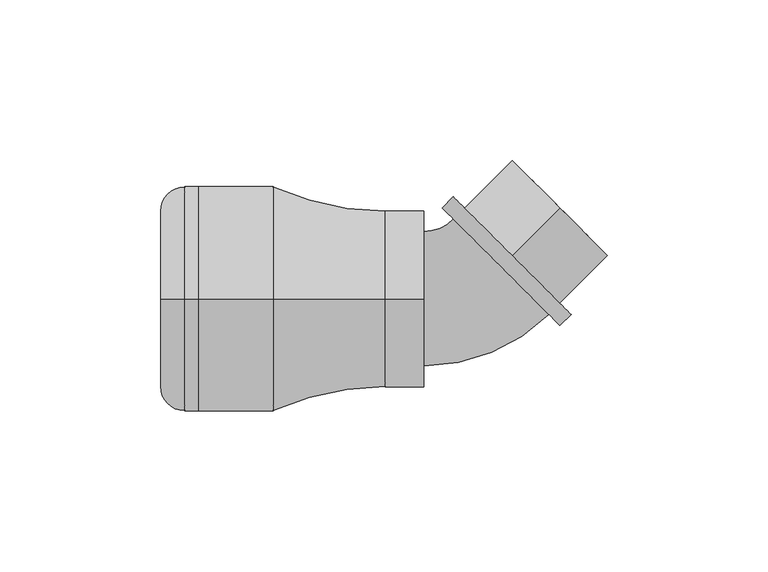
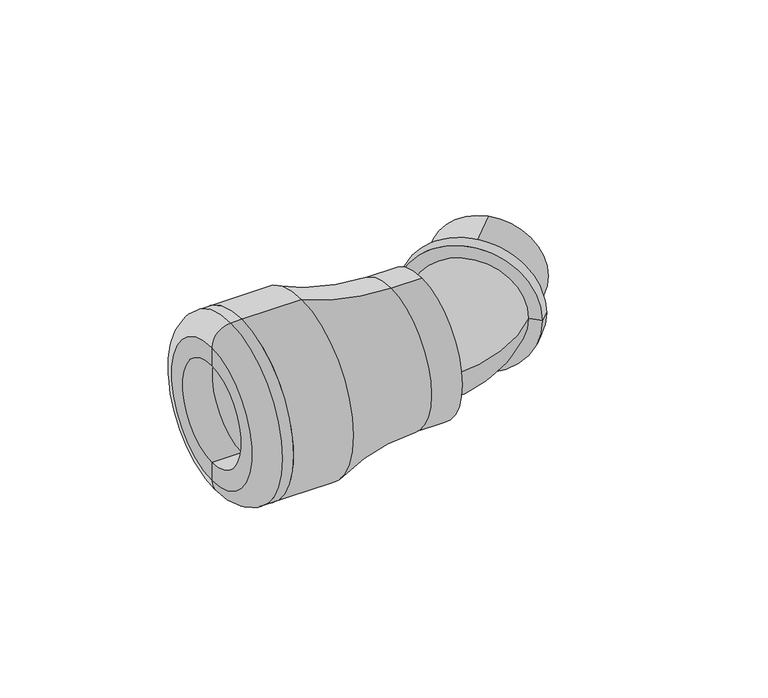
"""IFC4 building model written with IfcOpenShell, lengths in millimetres: pipe fitting geometry, Plumbing_Pipe-Fittings_Plasson_Elbow-45-with-Threaded-Male-Offtake_1045 : Plumbing_Pipe-Fittings_Plasson_Elbow-45-with-Threaded-Male-Offtake_1045."""

from ifc_helpers import new_model, si_unit, point, frame, origin, place, context, project, spatial, polyline, circle_curve, ellipse_curve, trimmed, source, transform, mapped, element, save
from ifc_brep_helpers import plane_surface, cylinder_surface, revolved_surface, advanced_brep


def pipe_fitting_5ccf9fb8(model_context):
    return source(origin(), model_context, "Body", "AdvancedBrep", [
        advanced_brep(
        [(28.2842712, 28.2842712, -12.975), (28.2842712, 28.2842712, 12.975), (13.4350288, 13.4350288, 12.975), (13.4350288, 13.4350288, -12.975), (28.2842712, 28.2842712, -20.95), (28.2842712, 28.2842712, 20.95), (13.4350288, 13.4350288, -20.95), (13.4350288, 13.4350288, 20.95)],
        [
            (0, 1, circle_curve(frame((28.2842712, 28.2842712, 0.0), z_axis=(0.707106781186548, 0.7071067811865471, 0.0), x_axis=(0.0, 0.0, 1.0)), 12.975)),
            (1, 2),
            (2, 3, circle_curve(frame((13.4350288, 13.4350288, 0.0), z_axis=(-0.707106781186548, -0.7071067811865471, 0.0), x_axis=(0.0, 0.0, 1.0)), 12.975)),
            (3, 0),
            (1, 0, circle_curve(frame((28.2842712, 28.2842712, 0.0), z_axis=(0.707106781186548, 0.7071067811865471, 0.0), x_axis=(0.0, 0.0, 1.0)), 12.975)),
            (3, 2, circle_curve(frame((13.4350288, 13.4350288, 0.0), z_axis=(-0.707106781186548, -0.7071067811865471, 0.0), x_axis=(0.0, 0.0, 1.0)), 12.975)),
            (4, 5, circle_curve(frame((28.2842712, 28.2842712, 0.0), z_axis=(0.707106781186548, 0.7071067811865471, 0.0), x_axis=(0.0, 0.0, 1.0)), 20.95)),
            (5, 1),
            (0, 4),
            (5, 4, circle_curve(frame((28.2842712, 28.2842712, 0.0), z_axis=(0.707106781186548, 0.7071067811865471, 0.0), x_axis=(0.0, 0.0, 1.0)), 20.95)),
            (6, 7, circle_curve(frame((13.4350288, 13.4350288, 0.0), z_axis=(0.707106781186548, 0.7071067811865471, 0.0), x_axis=(0.0, 0.0, 1.0)), 20.95)),
            (7, 5),
            (4, 6),
            (7, 6, circle_curve(frame((13.4350288, 13.4350288, 0.0), z_axis=(0.707106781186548, 0.7071067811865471, 0.0), x_axis=(0.0, 0.0, 1.0)), 20.95)),
            (2, 7),
            (6, 3),
        ],
        [
            revolved_surface(polyline([(13.435028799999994, 13.435028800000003, 12.975), (28.284271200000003, 28.284271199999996, 12.975)]), (21.4489057, 21.4489057, 0.0), (-0.707106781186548, -0.7071067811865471, 0.0)),
            plane_surface(frame((28.2842712, 28.2842712, 0.0), z_axis=(0.707106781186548, 0.7071067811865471, 0.0), x_axis=(0.0, 0.0, 1.0))),
            cylinder_surface(frame((21.4489057, 21.4489057, 0.0), z_axis=(-0.707106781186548, -0.7071067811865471, 0.0), x_axis=(0.0, 0.0, 1.0)), 20.95),
            plane_surface(frame((13.4350288, 13.4350288, 0.0), z_axis=(-0.707106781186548, -0.7071067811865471, 0.0), x_axis=(0.0, 0.0, 1.0))),
        ],
        [
            (0, [[1, 2, 3, 4]]),
            (0, [[5, -4, 6, -2]]),
            (1, [[7, 8, -1, 9]]),
            (1, [[10, -9, -5, -8]]),
            (2, [[11, 12, -7, 13]]),
            (2, [[14, -13, -10, -12]]),
            (3, [[-3, 15, -11, 16]]),
            (3, [[-6, -16, -14, -15]]),
        ],
    ),
        advanced_brep(
        [(-14.1246825, -20.95, 0.0), (-14.1246825, 20.95, 0.0), (24.8015458, -4.8262283, 0.0), (-4.8262283, 24.8015458, 0.0)],
        [
            (0, 1, circle_curve(frame((-14.1246825, 0.0, 0.0), z_axis=(-1.0, 0.0, 0.0), x_axis=(0.0, 1.0, 0.0)), 20.95)),
            (1, 0, circle_curve(frame((-14.1246825, 0.0, 0.0), z_axis=(-1.0, 0.0, 0.0), x_axis=(0.0, 1.0, 0.0)), 20.95)),
            (2, 3, circle_curve(frame((9.9876588, 9.9876588, 0.0), z_axis=(0.7071067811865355, 0.7071067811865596, 0.0), x_axis=(-0.7071067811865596, 0.7071067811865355, 0.0)), 20.95)),
            (3, 2, circle_curve(frame((9.9876588, 9.9876588, 0.0), z_axis=(0.7071067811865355, 0.7071067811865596, 0.0), x_axis=(-0.7071067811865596, 0.7071067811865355, 0.0)), 20.95)),
            (3, 1, circle_curve(frame((-14.1246825, 34.1, 0.0), z_axis=(0.0, 0.0, -1.0), x_axis=(0.0, -1.0, 0.0)), 13.15)),
            (0, 2, circle_curve(frame((-14.1246825, 34.1, 0.0), z_axis=(0.0, 0.0, 1.0), x_axis=(0.0, -1.0, 0.0)), 55.05)),
        ],
        [
            plane_surface(frame((-14.1246825, 0.0, 0.0), z_axis=(-1.0, 0.0, 0.0), x_axis=(0.0, 0.0, 1.0))),
            plane_surface(frame((9.9876588, 9.9876588, 0.0), z_axis=(0.7071067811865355, 0.7071067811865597, 0.0), x_axis=(0.0, 0.0, 1.0))),
            revolved_surface(trimmed(ellipse_curve(frame((-14.1246825, 0.0, 0.0), z_axis=(-1.0, 0.0, 0.0), x_axis=(0.0, 1.0, 0.0)), 20.95, 20.95), [point((-14.1246825, -20.95, 0.0))], [point((-14.1246825, 20.95, 0.0))], True, "CARTESIAN"), (-14.1246825, 34.1, 0.0), (0.0, 0.0, 1.0)),
            revolved_surface(trimmed(ellipse_curve(frame((-14.1246825, 0.0, 0.0), z_axis=(-1.0, 0.0, 0.0), x_axis=(0.0, 1.0, 0.0)), 20.95, 20.95), [point((-14.1246825, 20.95, 0.0))], [point((-14.1246825, -20.95, 0.0))], True, "CARTESIAN"), (-14.1246825, 34.1, 0.0), (0.0, 0.0, 1.0)),
        ],
        [
            (0, [[1, 2]]),
            (1, [[3, 4]]),
            (2, [[5, -1, 6, -4]]),
            (3, [[-6, -2, -5, -3]]),
        ],
    ),
        advanced_brep(
        [(28.3370797, -8.3617622, 0.0), (-8.3617622, 28.3370797, 0.0), (-4.9143921, 31.7844498, 0.0), (31.7844498, -4.9143921, 0.0), (13.4350288, 13.4350288, 0.0), (9.9876588, 9.9876588, 0.0)],
        [
            (0, 1, circle_curve(frame((9.9876588, 9.9876588, 0.0), z_axis=(0.7071067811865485, 0.7071067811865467, 0.0), x_axis=(-0.7071067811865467, 0.7071067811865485, 0.0)), 25.95)),
            (1, 2),
            (2, 3, circle_curve(frame((13.4350288, 13.4350288, 0.0), z_axis=(-0.7071067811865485, -0.7071067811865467, 0.0), x_axis=(-0.7071067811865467, 0.7071067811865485, 0.0)), 25.95)),
            (3, 0),
            (1, 0, circle_curve(frame((9.9876588, 9.9876588, 0.0), z_axis=(0.7071067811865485, 0.7071067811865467, 0.0), x_axis=(-0.7071067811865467, 0.7071067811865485, 0.0)), 25.95)),
            (3, 2, circle_curve(frame((13.4350288, 13.4350288, 0.0), z_axis=(-0.7071067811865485, -0.7071067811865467, 0.0), x_axis=(-0.7071067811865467, 0.7071067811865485, 0.0)), 25.95)),
            (2, 4),
            (4, 3),
            (5, 1),
            (0, 5),
        ],
        [
            cylinder_surface(frame((12.1252615, 12.1252615, 0.0), z_axis=(-0.7071067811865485, -0.7071067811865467, 0.0), x_axis=(-0.7071067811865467, 0.7071067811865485, 0.0)), 25.95),
            plane_surface(frame((13.4350288, 13.4350288, 0.0), z_axis=(0.7071067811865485, 0.7071067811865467, 0.0), x_axis=(-0.7071067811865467, 0.7071067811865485, 0.0))),
            plane_surface(frame((9.9876588, 9.9876588, 0.0), z_axis=(-0.7071067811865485, -0.7071067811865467, 0.0), x_axis=(-0.7071067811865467, 0.7071067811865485, 0.0))),
        ],
        [
            (0, [[1, 2, 3, 4]]),
            (0, [[5, -4, 6, -2]]),
            (1, [[-3, 7, 8]]),
            (1, [[-6, -8, -7]]),
            (2, [[9, -1, 10]]),
            (2, [[-10, -5, -9]]),
        ],
    ),
        advanced_brep(
        [(-84.3333333, 0.0, -35.0), (-84.3333333, 0.0, 35.0), (-84.3333333, 0.0, 20.0), (-84.3333333, 0.0, -20.0), (-88.5, 0.0, -35.0), (-88.5, 0.0, 35.0), (-96.0, 0.0, -27.5), (-96.0, 0.0, 27.5), (-96.0, 0.0, -20.0), (-96.0, 0.0, 20.0)],
        [
            (0, 1, circle_curve(frame((-84.3333333, 0.0, 0.0), z_axis=(1.0, 0.0, 0.0), x_axis=(0.0, 0.0, 1.0)), 35.0)),
            (1, 2),
            (2, 3, circle_curve(frame((-84.3333333, 0.0, 0.0), z_axis=(-1.0, 0.0, 0.0), x_axis=(0.0, 0.0, 1.0)), 20.0)),
            (3, 0),
            (1, 0, circle_curve(frame((-84.3333333, 0.0, 0.0), z_axis=(1.0, 0.0, 0.0), x_axis=(0.0, 0.0, 1.0)), 35.0)),
            (3, 2, circle_curve(frame((-84.3333333, 0.0, 0.0), z_axis=(-1.0, 0.0, 0.0), x_axis=(0.0, 0.0, 1.0)), 20.0)),
            (4, 5, circle_curve(frame((-88.5, 0.0, 0.0), z_axis=(1.0, 0.0, 0.0), x_axis=(0.0, 0.0, 1.0)), 35.0)),
            (5, 1),
            (0, 4),
            (5, 4, circle_curve(frame((-88.5, 0.0, 0.0), z_axis=(1.0, 0.0, 0.0), x_axis=(0.0, 0.0, 1.0)), 35.0)),
            (6, 7, circle_curve(frame((-96.0, 0.0, 0.0), z_axis=(1.0, 0.0, 0.0), x_axis=(0.0, 0.0, 1.0)), 27.5)),
            (7, 5, circle_curve(frame((-88.5, 0.0, 27.5), z_axis=(0.0, 1.0, 0.0), x_axis=(1.0, 0.0, 0.0)), 7.5)),
            (4, 6, circle_curve(frame((-88.5, 0.0, -27.5), z_axis=(0.0, 1.0, 0.0), x_axis=(1.0, 0.0, 0.0)), 7.5)),
            (7, 6, circle_curve(frame((-96.0, 0.0, 0.0), z_axis=(1.0, 0.0, 0.0), x_axis=(0.0, 0.0, 1.0)), 27.5)),
            (8, 9, circle_curve(frame((-96.0, 0.0, 0.0), z_axis=(1.0, 0.0, 0.0), x_axis=(0.0, 0.0, 1.0)), 20.0)),
            (9, 7),
            (6, 8),
            (9, 8, circle_curve(frame((-96.0, 0.0, 0.0), z_axis=(1.0, 0.0, 0.0), x_axis=(0.0, 0.0, 1.0)), 20.0)),
            (2, 9),
            (8, 3),
        ],
        [
            plane_surface(frame((-84.3333333, 0.0, 0.0), z_axis=(1.0, 0.0, 0.0), x_axis=(0.0, 0.0, 1.0))),
            cylinder_surface(frame((-101.0, 0.0, 0.0), z_axis=(-1.0, 0.0, 0.0), x_axis=(0.0, 0.0, 1.0)), 35.0),
            revolved_surface(trimmed(ellipse_curve(frame((-88.5, 0.0, 27.5), z_axis=(0.0, -1.0, 0.0), x_axis=(1.0, 0.0, 0.0)), 7.5, 7.5), [point((-88.5, 0.0, 35.0))], [point((-96.0, 0.0, 27.5))], True, "CARTESIAN"), (-101.0, 0.0, 0.0), (-1.0, 0.0, 0.0)),
            plane_surface(frame((-96.0, 0.0, 0.0), z_axis=(-1.0, 0.0, 0.0), x_axis=(0.0, 0.0, 1.0))),
            revolved_surface(polyline([(-96.0, 0.0, 20.0), (-84.3333333, 0.0, 20.0)]), (-101.0, 0.0, 0.0), (-1.0, 0.0, 0.0)),
        ],
        [
            (0, [[1, 2, 3, 4]]),
            (0, [[5, -4, 6, -2]]),
            (1, [[7, 8, -1, 9]]),
            (1, [[10, -9, -5, -8]]),
            (2, [[11, 12, -7, 13]]),
            (2, [[14, -13, -10, -12]]),
            (3, [[15, 16, -11, 17]]),
            (3, [[18, -17, -14, -16]]),
            (4, [[-3, 19, -15, 20]]),
            (4, [[-6, -20, -18, -19]]),
        ],
    ),
        advanced_brep(
        [(-84.3333333, 0.0, -20.0), (-84.3333333, 0.0, 20.0), (-84.3333333, 0.0, 35.0), (-84.3333333, 0.0, -35.0), (-26.0, 0.0, -20.0), (-26.0, 0.0, 20.0), (-26.0, 0.0, 0.0), (-61.0, 0.0, 35.0), (-61.0, 0.0, -35.0), (-14.1246825, 0.0, -27.5), (-14.1246825, 0.0, 27.5), (-14.1246825, 0.0, 0.0), (-26.0, 0.0, -27.5), (-26.0, 0.0, 27.5)],
        [
            (0, 1, circle_curve(frame((-84.3333333, 0.0, 0.0), z_axis=(1.0, 0.0, 0.0), x_axis=(0.0, 0.0, 1.0)), 20.0)),
            (1, 2),
            (2, 3, circle_curve(frame((-84.3333333, 0.0, 0.0), z_axis=(-1.0, 0.0, 0.0), x_axis=(0.0, 0.0, 1.0)), 35.0)),
            (3, 0),
            (1, 0, circle_curve(frame((-84.3333333, 0.0, 0.0), z_axis=(1.0, 0.0, 0.0), x_axis=(0.0, 0.0, 1.0)), 20.0)),
            (3, 2, circle_curve(frame((-84.3333333, 0.0, 0.0), z_axis=(-1.0, 0.0, 0.0), x_axis=(0.0, 0.0, 1.0)), 35.0)),
            (4, 5, circle_curve(frame((-26.0, 0.0, 0.0), z_axis=(1.0, 0.0, 0.0), x_axis=(0.0, 0.0, 1.0)), 20.0)),
            (5, 1),
            (0, 4),
            (5, 4, circle_curve(frame((-26.0, 0.0, 0.0), z_axis=(1.0, 0.0, 0.0), x_axis=(0.0, 0.0, 1.0)), 20.0)),
            (6, 5),
            (4, 6),
            (2, 7),
            (7, 8, circle_curve(frame((-61.0, 0.0, 0.0), z_axis=(-1.0, 0.0, 0.0), x_axis=(0.0, 0.0, 1.0)), 35.0)),
            (8, 3),
            (8, 7, circle_curve(frame((-61.0, 0.0, 0.0), z_axis=(-1.0, 0.0, 0.0), x_axis=(0.0, 0.0, 1.0)), 35.0)),
            (9, 10, circle_curve(frame((-14.1246825, 0.0, 0.0), z_axis=(1.0, 0.0, 0.0), x_axis=(0.0, 0.0, 1.0)), 27.5)),
            (10, 11),
            (11, 9),
            (10, 9, circle_curve(frame((-14.1246825, 0.0, 0.0), z_axis=(1.0, 0.0, 0.0), x_axis=(0.0, 0.0, 1.0)), 27.5)),
            (12, 13, circle_curve(frame((-26.0, 0.0, 0.0), z_axis=(1.0, 0.0, 0.0), x_axis=(0.0, 0.0, 1.0)), 27.5)),
            (13, 10),
            (9, 12),
            (13, 12, circle_curve(frame((-26.0, 0.0, 0.0), z_axis=(1.0, 0.0, 0.0), x_axis=(0.0, 0.0, 1.0)), 27.5)),
            (7, 13, circle_curve(frame((-26.0, 0.0, 112.9166667), z_axis=(0.0, -1.0, 0.0), x_axis=(1.0, 0.0, 0.0)), 85.4166667)),
            (12, 8, circle_curve(frame((-26.0, 0.0, -112.9166667), z_axis=(0.0, -1.0, 0.0), x_axis=(1.0, 0.0, 0.0)), 85.4166667)),
        ],
        [
            plane_surface(frame((-84.3333333, 0.0, 0.0), z_axis=(-1.0, 0.0, 0.0), x_axis=(0.0, 0.0, 1.0))),
            revolved_surface(polyline([(-84.3333333, 0.0, 20.0), (-26.0, 0.0, 20.0)]), (-84.3333333, 0.0, 0.0), (-1.0, 0.0, 0.0)),
            plane_surface(frame((-26.0, 0.0, 0.0), z_axis=(-1.0, 0.0, 0.0), x_axis=(0.0, 0.0, 1.0))),
            cylinder_surface(frame((-84.3333333, 0.0, 0.0), z_axis=(-1.0, 0.0, 0.0), x_axis=(0.0, 0.0, 1.0)), 35.0),
            plane_surface(frame((-14.1246825, 0.0, 0.0), z_axis=(1.0, 0.0, 0.0), x_axis=(0.0, 0.0, 1.0))),
            cylinder_surface(frame((-84.3333333, 0.0, 0.0), z_axis=(-1.0, 0.0, 0.0), x_axis=(0.0, 0.0, 1.0)), 27.5),
            revolved_surface(trimmed(ellipse_curve(frame((-26.0, 0.0, 112.9166667), z_axis=(0.0, 1.0, 0.0), x_axis=(1.0, 0.0, 0.0)), 85.4166667, 85.4166667), [point((-26.0, 0.0, 27.5))], [point((-61.0, 0.0, 35.0))], True, "CARTESIAN"), (-84.3333333, 0.0, 0.0), (-1.0, 0.0, 0.0)),
        ],
        [
            (0, [[1, 2, 3, 4]]),
            (0, [[5, -4, 6, -2]]),
            (1, [[7, 8, -1, 9]]),
            (1, [[10, -9, -5, -8]]),
            (2, [[11, -7, 12]]),
            (2, [[-12, -10, -11]]),
            (3, [[-3, 13, 14, 15]]),
            (3, [[-6, -15, 16, -13]]),
            (4, [[17, 18, 19]]),
            (4, [[20, -19, -18]]),
            (5, [[21, 22, -17, 23]]),
            (5, [[24, -23, -20, -22]]),
            (6, [[-14, 25, -21, 26]]),
            (6, [[-16, -26, -24, -25]]),
        ],
    ),
    ])


if __name__ == "__main__":
    model = new_model("IFC4")
    model_context = context("Model", 3, world=origin())
    ifc_project = project(units=[si_unit("LENGTHUNIT", "METRE", prefix="MILLI")], contexts=[model_context])
    site = spatial("IfcSite", under=ifc_project)
    building = spatial("IfcBuilding", under=site)
    placement = place(None, origin())
    pipe_fitting_shape = pipe_fitting_5ccf9fb8(model_context)
    element("IfcPipeFitting", 1, ObjectType="Plumbing_Pipe-Fittings_Plasson_Elbow-45-with-Threaded-Male-Offtake_1045 : Plumbing_Pipe-Fittings_Plasson_Elbow-45-with-Threaded-Male-Offtake_1045", at=placement, inside=building, context=model_context, shape_type="MappedRepresentation", body=[
        mapped(pipe_fitting_shape, transform((0.0, 0.0, 0.0), x_axis=(1.0, 0.0, 0.0), y_axis=(0.0, 1.0, 0.0), z_axis=(0.0, 0.0, 1.0))),
    ])
    save(model, "model.ifc")
